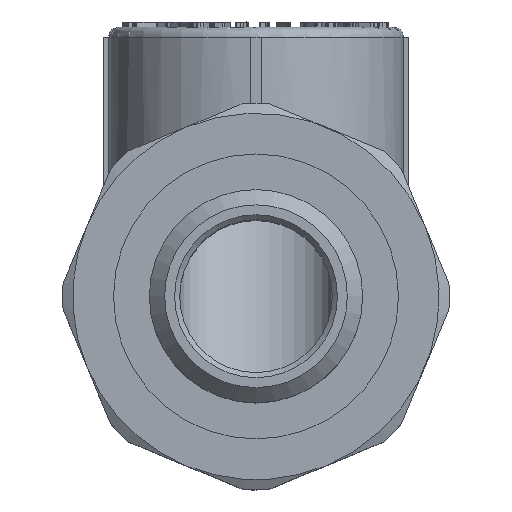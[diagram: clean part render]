
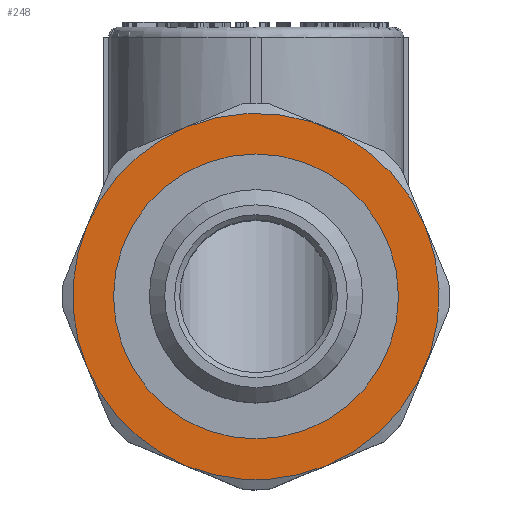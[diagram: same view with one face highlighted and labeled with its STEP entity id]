
A CAD part, top view. The second image highlights one B-rep face of the part: STEP entity #248.
In plain terms, the highlighted planar face has unit normal (0, 0, 1).
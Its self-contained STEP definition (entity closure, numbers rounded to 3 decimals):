
#248=ADVANCED_FACE('',(#979,#981),#983,.T.);
#979=FACE_BOUND('',#980,.T.);
#980=EDGE_LOOP('',(#6025,#6026,#6027,#6028,#6029));
#981=FACE_BOUND('',#982,.T.);
#982=EDGE_LOOP('',(#6030));
#983=PLANE('',#984);
#984=AXIS2_PLACEMENT_3D('',#985,#986,#987);
#985=CARTESIAN_POINT('',(0.,0.,31.5));
#986=DIRECTION('',(0.,0.,1.));
#987=DIRECTION('',(0.,1.,0.));
#6025=ORIENTED_EDGE('',*,*,#10657,.T.);
#6026=ORIENTED_EDGE('',*,*,#10658,.T.);
#6027=ORIENTED_EDGE('',*,*,#10659,.T.);
#6028=ORIENTED_EDGE('',*,*,#10660,.T.);
#6029=ORIENTED_EDGE('',*,*,#10661,.T.);
#6030=ORIENTED_EDGE('',*,*,#10662,.T.);
#10657=EDGE_CURVE('',#12496,#12497,#12498,.F.);
#10658=EDGE_CURVE('',#12497,#12499,#12500,.F.);
#10659=EDGE_CURVE('',#12499,#12501,#12502,.F.);
#10660=EDGE_CURVE('',#12501,#12503,#12504,.F.);
#10661=EDGE_CURVE('',#12503,#12496,#12505,.F.);
#10662=EDGE_CURVE('',#12506,#12506,#12507,.T.);
#12496=VERTEX_POINT('',#15565);
#12497=VERTEX_POINT('',#15566);
#12498=CIRCLE('',#15567,18.);
#12499=VERTEX_POINT('',#15571);
#12500=CIRCLE('',#15572,18.);
#12501=VERTEX_POINT('',#15576);
#12502=CIRCLE('',#15577,18.);
#12503=VERTEX_POINT('',#15581);
#12504=CIRCLE('',#15582,18.);
#12505=CIRCLE('',#15586,18.);
#12506=VERTEX_POINT('',#15590);
#12507=CIRCLE('',#15591,14.);
#15565=CARTESIAN_POINT('',(-6.888,16.63,31.5));
#15566=CARTESIAN_POINT('',(-16.63,6.888,31.5));
#15567=AXIS2_PLACEMENT_3D('',#15568,#15569,#15570);
#15568=CARTESIAN_POINT('',(0.,0.,31.5));
#15569=DIRECTION('',(0.,0.,-1.));
#15570=DIRECTION('',(-0.924,0.383,0.));
#15571=CARTESIAN_POINT('',(-16.63,-6.888,31.5));
#15572=AXIS2_PLACEMENT_3D('',#15573,#15574,#15575);
#15573=CARTESIAN_POINT('',(0.,0.,31.5));
#15574=DIRECTION('',(0.,0.,-1.));
#15575=DIRECTION('',(-0.924,-0.383,0.));
#15576=CARTESIAN_POINT('',(-6.888,-16.63,31.5));
#15577=AXIS2_PLACEMENT_3D('',#15578,#15579,#15580);
#15578=CARTESIAN_POINT('',(0.,0.,31.5));
#15579=DIRECTION('',(0.,0.,-1.));
#15580=DIRECTION('',(-0.383,-0.924,0.));
#15581=CARTESIAN_POINT('',(6.888,-16.63,31.5));
#15582=AXIS2_PLACEMENT_3D('',#15583,#15584,#15585);
#15583=CARTESIAN_POINT('',(0.,0.,31.5));
#15584=DIRECTION('',(0.,0.,-1.));
#15585=DIRECTION('',(0.383,-0.924,0.));
#15586=AXIS2_PLACEMENT_3D('',#15587,#15588,#15589);
#15587=CARTESIAN_POINT('',(0.,0.,31.5));
#15588=DIRECTION('',(0.,0.,-1.));
#15589=DIRECTION('',(-0.383,0.924,0.));
#15590=CARTESIAN_POINT('',(14.,0.,31.5));
#15591=AXIS2_PLACEMENT_3D('',#15592,#15593,#15594);
#15592=CARTESIAN_POINT('',(0.,0.,31.5));
#15593=DIRECTION('',(0.,0.,-1.));
#15594=DIRECTION('',(1.,0.,0.));
